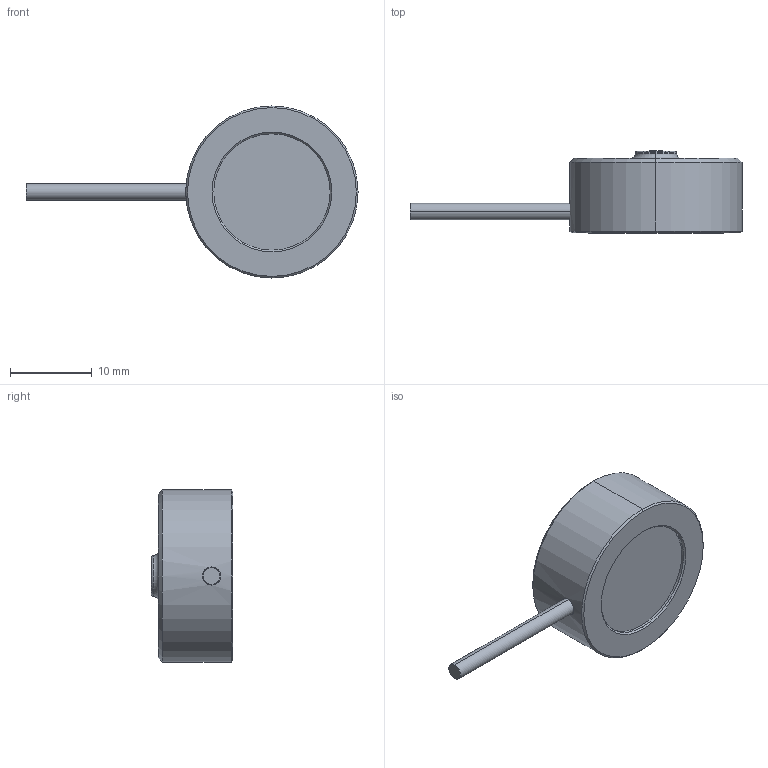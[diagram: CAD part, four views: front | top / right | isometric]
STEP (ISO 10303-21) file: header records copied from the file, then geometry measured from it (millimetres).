
FILE_DESCRIPTION (( 'STEP AP203' ), '1' );
FILE_NAME ('3Dƒ‚ƒbƒN_UCC 10KN_20KN.STEP', '2020-09-07T00:29:00', ( '' ), ( '' ), 'SwSTEP 2.0', 'SolidWorks 2019', '' );
FILE_SCHEMA (( 'CONFIG_CONTROL_DESIGN' ));
Length unit declared in the file: millimetre
Products named in the file (1): 3D儌僢僋_UCC 10KN_20KN
Bounding box: 40.5 x 10 x 21 mm (x, y, z)
Volume: 3135 mm3; surface area: 1551.7 mm2
Topology: 1 solids, 1 shells, 27 faces, 54 edges, 33 vertices
Faces by surface type: cylinder 10, cone 6, plane 5, torus 4, sphere 2
Entity records: 819 total; most frequent: CARTESIAN_POINT 149, DIRECTION 144, ORIENTED_EDGE 108, AXIS2_PLACEMENT_3D 64, EDGE_CURVE 54, CIRCLE 36, VERTEX_POINT 33, EDGE_LOOP 31
